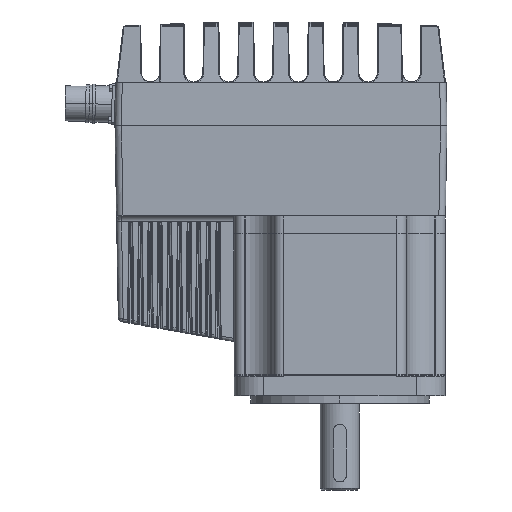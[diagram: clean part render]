
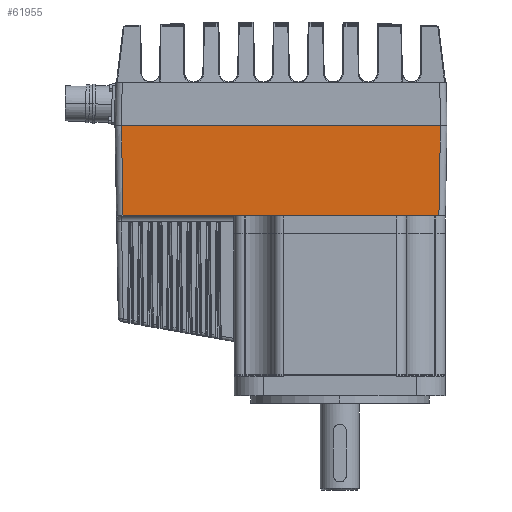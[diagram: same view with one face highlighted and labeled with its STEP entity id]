
A CAD part, left-side view. The second image highlights one B-rep face of the part: STEP entity #61955.
In plain terms, the highlighted planar face has unit normal (-1, 0, -0.018) as drawn and (1, 0, 0.017) by its records, which use the part's own axes.
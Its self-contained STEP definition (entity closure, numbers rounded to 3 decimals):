
#5585 = CARTESIAN_POINT ( 'NONE',  ( 226.24, 306.764, 43. ) ) ;
#6320 = VECTOR ( 'NONE', #81227, 1000. ) ;
#6618 = DIRECTION ( 'NONE',  ( 0., 1., 0. ) ) ;
#7624 = DIRECTION ( 'NONE',  ( 0., -1., 0. ) ) ;
#8861 = EDGE_LOOP ( 'NONE', ( #53535, #49341, #92758, #83100 ) ) ;
#21624 = AXIS2_PLACEMENT_3D ( 'NONE', #23004, #22295, #56682 ) ;
#22295 = DIRECTION ( 'NONE',  ( 1., 0., 0.017 ) ) ;
#22323 = CARTESIAN_POINT ( 'NONE',  ( 226.24, 112.18, 43. ) ) ;
#22563 = CARTESIAN_POINT ( 'NONE',  ( 226.24, 112.18, 43. ) ) ;
#22667 = CARTESIAN_POINT ( 'NONE',  ( 227.209, 307.733, -12.5 ) ) ;
#23004 = CARTESIAN_POINT ( 'NONE',  ( 226.24, 308.912, 43. ) ) ;
#24001 = VERTEX_POINT ( 'NONE', #22563 ) ;
#27465 = LINE ( 'NONE', #32139, #57600 ) ;
#29301 = CARTESIAN_POINT ( 'NONE',  ( 227.205, 307.729, -12.3 ) ) ;
#32139 = CARTESIAN_POINT ( 'NONE',  ( 227.205, 308.912, -12.3 ) ) ;
#32499 = CARTESIAN_POINT ( 'NONE',  ( 227.205, 111.214, -12.3 ) ) ;
#43503 = EDGE_CURVE ( 'NONE', #62680, #53963, #27465, .T. ) ;
#45433 = LINE ( 'NONE', #22323, #6320 ) ;
#49341 = ORIENTED_EDGE ( 'NONE', *, *, #43503, .T. ) ;
#53535 = ORIENTED_EDGE ( 'NONE', *, *, #63297, .T. ) ;
#53963 = VERTEX_POINT ( 'NONE', #29301 ) ;
#54039 = VERTEX_POINT ( 'NONE', #5585 ) ;
#56682 = DIRECTION ( 'NONE',  ( 0.017, 0., -1. ) ) ;
#57600 = VECTOR ( 'NONE', #6618, 1000. ) ;
#61103 = LINE ( 'NONE', #99472, #96495 ) ;
#61955 = ADVANCED_FACE ( 'NONE', ( #80764 ), #73140, .T. ) ;
#62680 = VERTEX_POINT ( 'NONE', #32499 ) ;
#63297 = EDGE_CURVE ( 'NONE', #24001, #62680, #45433, .T. ) ;
#73140 = PLANE ( 'NONE',  #21624 ) ;
#80764 = FACE_OUTER_BOUND ( 'NONE', #8861, .T. ) ;
#81227 = DIRECTION ( 'NONE',  ( 0.017, -0.017, -1. ) ) ;
#81665 = VECTOR ( 'NONE', #108338, 1000. ) ;
#83100 = ORIENTED_EDGE ( 'NONE', *, *, #94260, .T. ) ;
#85372 = EDGE_CURVE ( 'NONE', #53963, #54039, #103974, .T. ) ;
#92758 = ORIENTED_EDGE ( 'NONE', *, *, #85372, .T. ) ;
#94260 = EDGE_CURVE ( 'NONE', #54039, #24001, #61103, .T. ) ;
#96495 = VECTOR ( 'NONE', #7624, 1000. ) ;
#99472 = CARTESIAN_POINT ( 'NONE',  ( 226.24, 308.912, 43. ) ) ;
#103974 = LINE ( 'NONE', #22667, #81665 ) ;
#108338 = DIRECTION ( 'NONE',  ( -0.017, -0.017, 1. ) ) ;
